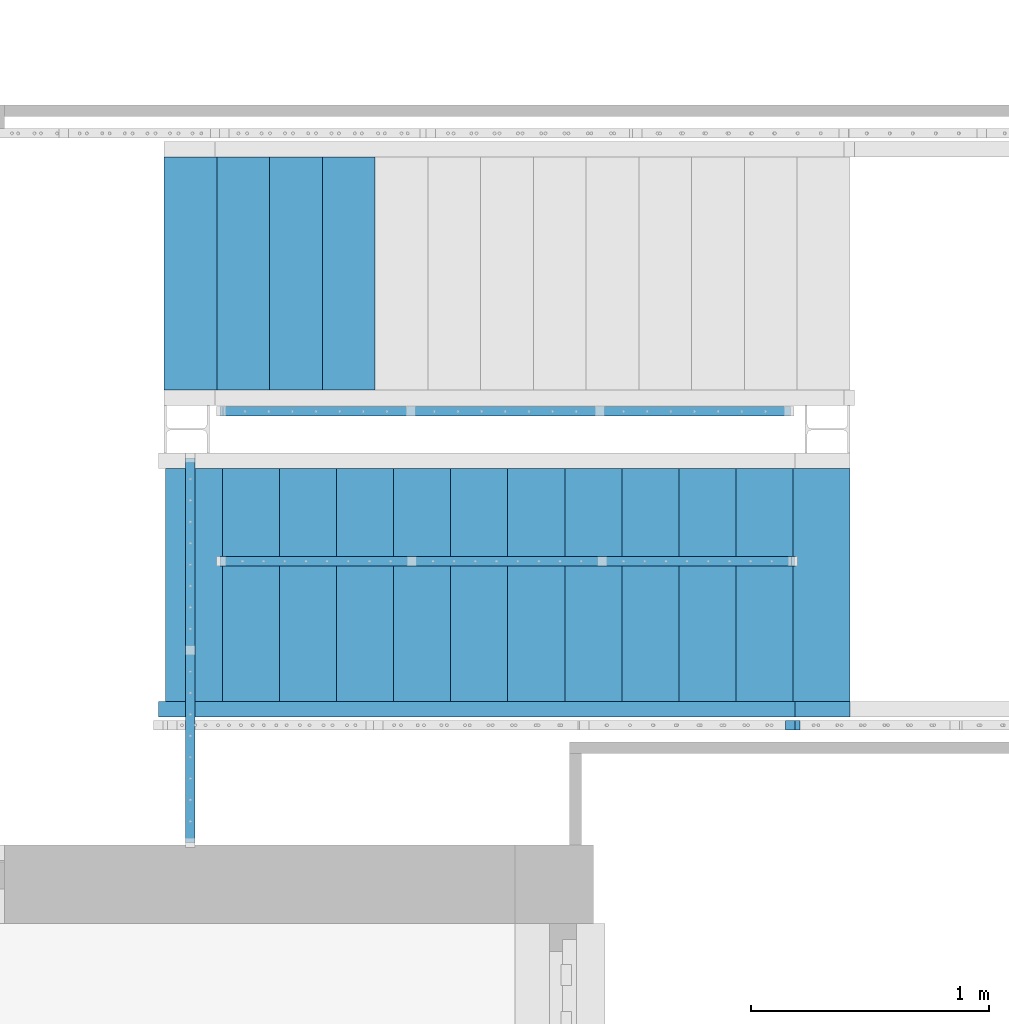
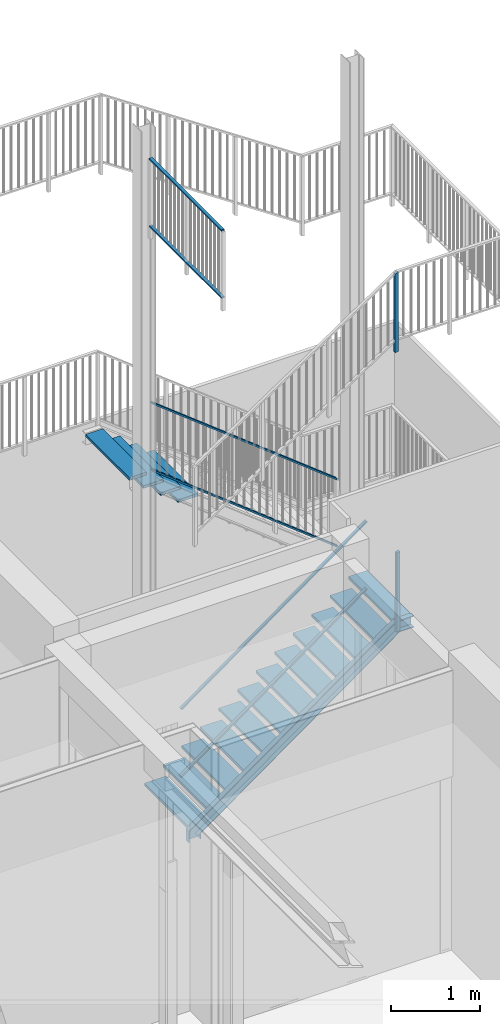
# One storey, part 60 of 135: 25 members, 7 elements without a shape of their own.
"""IFC2X3 building model written with IfcOpenShell, lengths in millimetres."""

from ifc_helpers import new_model, entity, si_unit, converted_unit, derived_unit, money_unit, direction, frame, origin_with_axes, place, context, subcontext, project, spatial, faceted_brep, material, type_object, element, aggregate, save


model = new_model("IFC2X3")

# Units and contexts
model_context = context("Model", 3, precision=0.01, world=origin_with_axes(), true_north=direction((0.0, 1.0)))
body_context = subcontext(model_context, "Body", "Model", "MODEL_VIEW")
ifc_project = project(units=[si_unit("LENGTHUNIT", "METRE", prefix="MILLI"), si_unit("AREAUNIT", "SQUARE_METRE"), si_unit("VOLUMEUNIT", "CUBIC_METRE"), converted_unit("PLANEANGLEUNIT", "DEGREE", entity("IfcPlaneAngleMeasure", 0.0174532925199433), si_unit("PLANEANGLEUNIT", "RADIAN"), dimensions=[0, 0, 0, 0, 0, 0, 0]), money_unit("EUR"), converted_unit("TIMEUNIT", "Year", entity("IfcTimeMeasure", 31557600.0), si_unit("TIMEUNIT", "SECOND"), dimensions=[0, 0, 1, 0, 0, 0, 0]), si_unit("MASSUNIT", "GRAM", prefix="KILO"), si_unit("THERMODYNAMICTEMPERATUREUNIT", "DEGREE_CELSIUS"), si_unit("LUMINOUSINTENSITYUNIT", "LUMEN"), si_unit("ENERGYUNIT", "JOULE", prefix="MEGA"), derived_unit("THERMALCONDUCTANCEUNIT", [(si_unit("POWERUNIT", "WATT"), 1), (si_unit("LENGTHUNIT", "METRE"), -1), (si_unit("THERMODYNAMICTEMPERATUREUNIT", "KELVIN"), -1)]), derived_unit("SPECIFICHEATCAPACITYUNIT", [(si_unit("ENERGYUNIT", "JOULE"), 1), (si_unit("MASSUNIT", "GRAM", prefix="KILO"), -1), (si_unit("THERMODYNAMICTEMPERATUREUNIT", "KELVIN"), -1)]), derived_unit("MASSDENSITYUNIT", [(si_unit("MASSUNIT", "GRAM", prefix="KILO"), 1), (si_unit("VOLUMEUNIT", "CUBIC_METRE"), -1)])], contexts=[model_context])

# Site, building, storey
site_placement = place(None, origin_with_axes())
site = spatial("IfcSite", under=ifc_project, at=site_placement, Name="Site", CompositionType="ELEMENT")
building_placement = place(site_placement, origin_with_axes())
building = spatial("IfcBuilding", under=site, at=building_placement, Name="Naam gebouw", CompositionType="ELEMENT")
storey_placement = place(building_placement, origin_with_axes())
storey = spatial("IfcBuildingStorey", under=building, at=storey_placement, Name="Begane grond N", CompositionType="ELEMENT", Elevation=0.0)

# Railing, member
railing_type = type_object("IfcRailingType", Name="Railing Type", PredefinedType="NOTDEFINED")
railing_1_placement = place(storey_placement, frame((56236.62159597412, 21185.9124251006, 157.4646725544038), z_axis=(0.0, 0.0, 1.0), x_axis=(1.0, 0.0, 0.0)))
railing_1 = element("IfcRailing", 1, at=railing_1_placement, inside=storey, type_object=railing_type, Name="_Reling-x", PredefinedType="NOTDEFINED")
ifc_material = material(Name="Metaal - Staal C")
member_type_1 = type_object("IfcMemberType", Name="IfcMember", PredefinedType="POST")
member_1_placement = place(railing_1_placement, frame((2542.415388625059, -24.99999999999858, 1830.208938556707), z_axis=(0.0, 0.0, 1.0), x_axis=(1.0, 0.0, 0.0)))
member_1 = element("IfcMember", 2, at=member_1_placement, type_object=member_type_1, material=ifc_material, Name="_Hoofdbaluster-x", ObjectType="POST", context=body_context, shape_type="Brep", body=[
    faceted_brep([(20.00000000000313, -19.99999999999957, 6.454471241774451), (20.00000000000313, 19.99999999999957, 6.454471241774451), (20.00000000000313, 19.99999999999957, 1086.454471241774), (20.00000000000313, -19.99999999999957, 1086.454471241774), (-20.00000000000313, -19.99999999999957, -6.454471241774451), (-20.00000000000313, 19.99999999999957, -6.454471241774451), (-20.00000000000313, 19.99999999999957, 1073.545528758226), (-20.00000000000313, -19.99999999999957, 1073.545528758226)], [[[0, 1, 2, 3]], [[0, 4, 5, 1]], [[1, 5, 6, 2]], [[3, 2, 6, 7]], [[4, 0, 3, 7]], [[5, 4, 7, 6]]]),
])
aggregate(railing_1, [member_1])

railing_2_placement = place(storey_placement, frame((56236.62159597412, 21185.9124251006, 4176.0), z_axis=(0.0, 0.0, 1.0), x_axis=(1.0, 0.0, 0.0)))
railing_2 = element("IfcRailing", 3, at=railing_2_placement, inside=storey, type_object=railing_type, Name="_Reling-x", PredefinedType="NOTDEFINED")
member_2_placement = place(railing_2_placement, frame((2521.492459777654, -24.99999999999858, 1636.673611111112), z_axis=(0.0, 0.0, 1.0), x_axis=(1.0, 0.0, 0.0)))
member_2 = element("IfcMember", 4, at=member_2_placement, type_object=member_type_1, material=ifc_material, Name="_Hoofdbaluster-x", ObjectType="POST", context=body_context, shape_type="Brep", body=[
    faceted_brep([(20.00000000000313, -19.99999999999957, 6.066070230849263), (20.00000000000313, 19.99999999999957, 6.066070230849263), (20.00000000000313, 19.99999999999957, 1086.066070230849), (20.00000000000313, -19.99999999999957, 1086.066070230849), (-20.00000000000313, -19.99999999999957, -6.066070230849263), (-20.00000000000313, 19.99999999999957, -6.066070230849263), (-20.00000000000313, 19.99999999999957, 1073.933929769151), (-20.00000000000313, -19.99999999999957, 1073.933929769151)], [[[0, 1, 2, 3]], [[0, 4, 5, 1]], [[1, 5, 6, 2]], [[3, 2, 6, 7]], [[4, 0, 3, 7]], [[5, 4, 7, 6]]]),
])
aggregate(railing_2, [member_2])

# Railing, members
railing_3_placement = place(storey_placement, frame((56130.0, 21825.9124251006, 348.1433232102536), z_axis=(0.0, 0.0, 1.0), x_axis=(1.0, 0.0, 0.0)))
railing_3 = element("IfcRailing", 5, at=railing_3_placement, inside=storey, type_object=railing_type, Name="_Reling-x", PredefinedType="NOTDEFINED")
member_type_2 = type_object("IfcMemberType", Name="IfcMember", PredefinedType="USERDEFINED")
member_3_placement = place(railing_3_placement, frame((1437.32638888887, 24.99999999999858, 971.7157287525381), z_axis=(0.0, 0.0, 1.0), x_axis=(1.0, 0.0, 0.0)))
member_3 = element("IfcMember", 6, at=member_3_placement, type_object=member_type_2, material=ifc_material, Name="_Bovenregel-x", context=body_context, shape_type="Brep", body=[
    faceted_brep([(-1202.673611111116, -19.99999999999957, 28.2842712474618), (-1190.982322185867, -19.99999999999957, 12.05732565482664), (1214.364900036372, -19.99999999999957, 1745.076591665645), (1202.673611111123, -19.99999999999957, 1761.303537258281), (-1202.673611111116, 19.99999999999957, 28.2842712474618), (-1190.982322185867, 19.99999999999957, 12.05732565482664), (1214.364900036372, 19.99999999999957, 1745.076591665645), (1202.673611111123, 19.99999999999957, 1761.303537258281)], [[[0, 1, 2, 3]], [[0, 4, 5, 1]], [[1, 5, 6, 2]], [[3, 2, 6, 7]], [[4, 0, 3, 7]], [[5, 4, 7, 6]]]),
])
member_4_placement = place(railing_3_placement, frame((1437.32638888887, 24.99999999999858, 47.63932022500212), z_axis=(0.0, 0.0, 1.0), x_axis=(1.0, 0.0, 0.0)))
member_4 = element("IfcMember", 7, at=member_4_placement, type_object=member_type_2, material=ifc_material, Name="_Regel-x", context=body_context, shape_type="Brep", body=[
    faceted_brep([(-1208.519255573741, -19.99999999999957, 30.47415257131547), (-1196.827966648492, -19.99999999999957, 14.24720697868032), (1208.519255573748, -19.99999999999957, 1747.266472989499), (1196.827966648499, -19.99999999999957, 1763.493418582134), (-1208.519255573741, 19.99999999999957, 30.47415257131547), (-1196.827966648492, 19.99999999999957, 14.24720697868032), (1208.519255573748, 19.99999999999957, 1747.266472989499), (1196.827966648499, 19.99999999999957, 1763.493418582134)], [[[0, 1, 2, 3]], [[0, 4, 5, 1]], [[1, 5, 6, 2]], [[3, 2, 6, 7]], [[4, 0, 3, 7]], [[5, 4, 7, 6]]]),
])
aggregate(railing_3, [member_3, member_4])

railing_4_placement = place(storey_placement, frame((56130.0, 22505.9124251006, 2285.20743093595), z_axis=(0.0, 0.0, 1.0), x_axis=(1.0, 0.0, 0.0)))
railing_4 = element("IfcRailing", 8, at=railing_4_placement, inside=storey, type_object=railing_type, Name="_Reling-x", PredefinedType="NOTDEFINED")
member_5_placement = place(railing_4_placement, frame((1429.206740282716, -24.99999999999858, 971.7157287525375), z_axis=(0.0, 0.0, 1.0), x_axis=(1.0, 0.0, 0.0)))
member_5 = element("IfcMember", 9, at=member_5_placement, type_object=member_type_2, material=ifc_material, Name="_Bovenregel-x", context=body_context, shape_type="Brep", body=[
    faceted_brep([(-1194.206740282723, -19.99999999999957, 1904.066623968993), (-1206.559798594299, -19.99999999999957, 1888.337607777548), (1181.853681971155, -19.99999999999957, 12.55525505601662), (1194.206740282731, -19.99999999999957, 28.28427124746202), (-1194.206740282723, 19.99999999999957, 1904.066623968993), (-1206.559798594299, 19.99999999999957, 1888.337607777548), (1181.853681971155, 19.99999999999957, 12.55525505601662), (1194.206740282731, 19.99999999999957, 28.28427124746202)], [[[0, 1, 2, 3]], [[0, 4, 5, 1]], [[1, 5, 6, 2]], [[3, 2, 6, 7]], [[4, 0, 3, 7]], [[5, 4, 7, 6]]]),
])
member_6_placement = place(railing_4_placement, frame((1429.206740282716, -24.99999999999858, 47.63932022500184), z_axis=(0.0, 0.0, 1.0), x_axis=(1.0, 0.0, 0.0)))
member_6 = element("IfcMember", 10, at=member_6_placement, type_object=member_type_2, material=ifc_material, Name="_Regel-x", context=body_context, shape_type="Brep", body=[
    faceted_brep([(-1188.030211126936, -19.99999999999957, 1906.007540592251), (-1200.383269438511, -19.99999999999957, 1890.278524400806), (1188.030211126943, -19.99999999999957, 14.49617167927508), (1200.383269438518, -19.99999999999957, 30.22518787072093), (-1188.030211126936, 19.99999999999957, 1906.007540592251), (-1200.383269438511, 19.99999999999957, 1890.278524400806), (1188.030211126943, 19.99999999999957, 14.49617167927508), (1200.383269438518, 19.99999999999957, 30.22518787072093)], [[[0, 1, 2, 3]], [[0, 4, 5, 1]], [[1, 5, 6, 2]], [[3, 2, 6, 7]], [[4, 0, 3, 7]], [[5, 4, 7, 6]]]),
])
aggregate(railing_4, [member_5, member_6])

railing_5_placement = place(storey_placement, frame((56209.65277777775, 21185.9124251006, 7662.6), z_axis=(0.0, 0.0, 1.0), x_axis=(1.0, 0.0, 0.0)))
railing_5 = element("IfcRailing", 11, at=railing_5_placement, inside=storey, type_object=railing_type, Name="_Reling-x", PredefinedType="NOTDEFINED")
member_7_placement = place(railing_5_placement, frame((24.99999999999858, 290.0000000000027, 971.7157287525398), z_axis=(0.0, 0.0, 1.0), x_axis=(1.0, 0.0, 0.0)))
member_7 = element("IfcMember", 12, at=member_7_placement, type_object=member_type_2, material=ifc_material, Name="_Bovenregel-x", context=body_context, shape_type="Brep", body=[
    faceted_brep([(20.00000000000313, -809.9999999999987, 28.28427124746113), (20.00000000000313, -809.9999999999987, 8.284271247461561), (20.00000000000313, 809.9999999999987, 8.284271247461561), (20.00000000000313, 809.9999999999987, 28.28427124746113), (-20.00000000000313, -809.9999999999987, 28.28427124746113), (-20.00000000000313, -809.9999999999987, 8.284271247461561), (-20.00000000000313, 809.9999999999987, 8.284271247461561), (-20.00000000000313, 809.9999999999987, 28.28427124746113)], [[[0, 1, 2, 3]], [[0, 4, 5, 1]], [[1, 5, 6, 2]], [[3, 2, 6, 7]], [[4, 0, 3, 7]], [[5, 4, 7, 6]]]),
])
member_8_placement = place(railing_5_placement, frame((24.99999999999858, 290.0000000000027, 47.63932022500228), z_axis=(0.0, 0.0, 1.0), x_axis=(1.0, 0.0, 0.0)))
member_8 = element("IfcMember", 13, at=member_8_placement, type_object=member_type_2, material=ifc_material, Name="_Regel-x", context=body_context, shape_type="Brep", body=[
    faceted_brep([(20.00000000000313, -809.9999999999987, 32.36067977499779), (20.00000000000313, -809.9999999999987, 12.36067977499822), (20.00000000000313, 809.9999999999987, 12.36067977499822), (20.00000000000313, 809.9999999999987, 32.36067977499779), (-20.00000000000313, -809.9999999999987, 32.36067977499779), (-20.00000000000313, -809.9999999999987, 12.36067977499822), (-20.00000000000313, 809.9999999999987, 12.36067977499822), (-20.00000000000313, 809.9999999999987, 32.36067977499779)], [[[0, 1, 2, 3]], [[0, 4, 5, 1]], [[1, 5, 6, 2]], [[3, 2, 6, 7]], [[4, 0, 3, 7]], [[5, 4, 7, 6]]]),
])
aggregate(railing_5, [member_7, member_8])

# Stair, members
stair_1_placement = place(storey_placement, frame((56130.0, 22240.9124251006, 0.0), z_axis=(0.0, 0.0, 1.0), x_axis=(-1.0, 0.0, 0.0)))
stair_1 = element("IfcStair", 14, at=stair_1_placement, inside=storey, Name="_Trap-x", ShapeType="NOTDEFINED")
member_type_3 = type_object("IfcMemberType", Name="IfcMember", PredefinedType="NOTDEFINED")
member_9_placement = place(stair_1_placement, origin_with_axes())
member_9 = element("IfcMember", 15, at=member_9_placement, type_object=member_type_3, material=ifc_material, Name="_Trapconstructie-x", context=body_context, shape_type="Brep", body=[
    faceted_brep([(30.00000000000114, 979.9999999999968, 0.0), (30.00000000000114, 979.9999999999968, 157.4646725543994), (-130.0000000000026, 979.9999999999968, 75.53959525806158), (-130.0000000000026, 979.9999999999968, 0.0), (30.00000000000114, 1044.999999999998, 0.0), (30.00000000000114, 1044.999999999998, 157.4646725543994), (2.922822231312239, 979.9999999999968, 176.9734030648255), (-90.6074891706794, 979.9999999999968, 47.15783832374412), (-130.0000000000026, 1044.999999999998, 75.53959525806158), (-130.0000000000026, 1044.999999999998, 0.0), (-119.5000000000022, 1044.999999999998, 0.0), (-119.5000000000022, 987.4999999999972, 0.0), (19.50000000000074, 987.4999999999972, 0.0), (19.50000000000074, 1044.999999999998, 0.0), (19.50000000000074, 1044.999999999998, 152.0883393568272), (2.922822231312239, 1044.999999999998, 176.9734030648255), (-237.0771777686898, 979.9999999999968, 349.8900697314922), (-330.6074891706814, 979.9999999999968, 220.0745049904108), (-90.6074891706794, 1044.999999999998, 47.15783832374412), (-119.5000000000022, 1044.999999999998, 80.91592845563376), (-119.5000000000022, 987.4999999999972, 80.91592845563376), (19.50000000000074, 987.4999999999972, 152.0883393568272), (-3.21510445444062, 1044.999999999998, 168.454256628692), (-237.0771777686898, 1044.999999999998, 349.8900697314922), (-477.0771777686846, 979.9999999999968, 522.8067363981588), (-570.6074891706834, 979.9999999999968, 392.9911716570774), (-330.6074891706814, 1044.999999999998, 220.0745049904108), (-84.46956248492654, 1044.999999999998, 55.67698475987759), (-84.46956248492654, 987.4999999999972, 55.67698475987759), (-3.21510445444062, 987.4999999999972, 168.454256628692), (-243.2151044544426, 1044.999999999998, 341.3709232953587), (-477.0771777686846, 1044.999999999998, 522.8067363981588), (-717.0771777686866, 979.9999999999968, 695.7234030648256), (-810.6074891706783, 979.9999999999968, 565.9078383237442), (-570.6074891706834, 1044.999999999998, 392.9911716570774), (-324.4695624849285, 1044.999999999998, 228.5936514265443), (-324.4695624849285, 987.4999999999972, 228.5936514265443), (-243.2151044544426, 987.4999999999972, 341.3709232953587), (-483.2151044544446, 1044.999999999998, 514.2875899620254), (-717.0771777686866, 1044.999999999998, 695.7234030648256), (-957.0771777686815, 979.9999999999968, 868.6400697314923), (-1050.60748917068, 979.9999999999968, 738.8245049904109), (-810.6074891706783, 1044.999999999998, 565.9078383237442), (-564.4695624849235, 1044.999999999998, 401.5103180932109), (-564.4695624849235, 987.4999999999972, 401.5103180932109), (-483.2151044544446, 987.4999999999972, 514.2875899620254), (-723.2151044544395, 1044.999999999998, 687.2042566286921), (-957.0771777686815, 1044.999999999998, 868.6400697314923), (-1197.077177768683, 979.9999999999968, 1041.556736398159), (-1290.607489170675, 979.9999999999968, 911.7411716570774), (-1050.60748917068, 1044.999999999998, 738.8245049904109), (-804.4695624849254, 1044.999999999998, 574.4269847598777), (-804.4695624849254, 987.4999999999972, 574.4269847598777), (-723.2151044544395, 987.4999999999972, 687.2042566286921), (-963.2151044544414, 1044.999999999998, 860.1209232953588), (-1197.077177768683, 1044.999999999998, 1041.556736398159), (-1437.077177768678, 979.9999999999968, 1214.473403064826), (-1530.607489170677, 979.9999999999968, 1084.657838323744), (-1290.607489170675, 1044.999999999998, 911.7411716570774), (-1044.46956248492, 1044.999999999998, 747.3436514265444), (-1044.46956248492, 987.4999999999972, 747.3436514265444), (-963.2151044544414, 987.4999999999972, 860.1209232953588), (-1203.215104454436, 1044.999999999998, 1033.037589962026), (-1437.077177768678, 1044.999999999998, 1214.473403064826), (-1677.07717776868, 979.9999999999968, 1387.390069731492), (-1770.607489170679, 979.9999999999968, 1257.574504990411), (-1530.607489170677, 1044.999999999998, 1084.657838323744), (-1284.469562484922, 1044.999999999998, 920.2603180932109), (-1284.469562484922, 987.4999999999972, 920.2603180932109), (-1203.215104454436, 987.4999999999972, 1033.037589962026), (-1443.215104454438, 1044.999999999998, 1205.954256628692), (-1677.07717776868, 1044.999999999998, 1387.390069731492), (-1917.077177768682, 979.9999999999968, 1560.306736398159), (-2010.607489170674, 979.9999999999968, 1430.491171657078), (-1770.607489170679, 1044.999999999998, 1257.574504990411), (-1524.469562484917, 1044.999999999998, 1093.176984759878), (-1524.469562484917, 987.4999999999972, 1093.176984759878), (-1443.215104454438, 987.4999999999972, 1205.954256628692), (-1683.215104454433, 1044.999999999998, 1378.870923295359), (-1917.077177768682, 1044.999999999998, 1560.306736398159), (-2157.077177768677, 979.9999999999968, 1733.223403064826), (-2250.607489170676, 979.9999999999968, 1603.407838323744), (-2010.607489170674, 1044.999999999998, 1430.491171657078), (-1764.469562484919, 1044.999999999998, 1266.093651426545), (-1764.469562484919, 987.4999999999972, 1266.093651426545), (-1683.215104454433, 987.4999999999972, 1378.870923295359), (-1923.215104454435, 1044.999999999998, 1551.787589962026), (-2157.077177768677, 1044.999999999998, 1733.223403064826), (-2397.077177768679, 979.9999999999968, 1906.140069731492), (-2490.607489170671, 979.9999999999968, 1776.324504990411), (-2250.607489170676, 1044.999999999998, 1603.407838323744), (-2004.469562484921, 1044.999999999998, 1439.010318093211), (-2004.469562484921, 987.4999999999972, 1439.010318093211), (-1923.215104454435, 987.4999999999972, 1551.787589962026), (-2163.215104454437, 1044.999999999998, 1724.704256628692), (-2397.077177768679, 1044.999999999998, 1906.140069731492), (-2649.073611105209, 979.9999999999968, 2087.7), (-2700.709381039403, 979.9999999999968, 1927.7), (-2490.607489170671, 1044.999999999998, 1776.324504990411), (-2244.469562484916, 1044.999999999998, 1611.926984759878), (-2244.469562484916, 987.4999999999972, 1611.926984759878), (-2163.215104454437, 987.4999999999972, 1724.704256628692), (-2403.215104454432, 1044.999999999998, 1897.620923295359), (-2649.073611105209, 1044.999999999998, 2087.7), (-2879.999999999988, 979.9999999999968, 2087.7), (-2879.999999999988, 979.9999999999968, 1927.7), (-2700.709381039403, 1044.999999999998, 1927.7), (-2484.469562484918, 1044.999999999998, 1784.843651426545), (-2484.469562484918, 987.4999999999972, 1784.843651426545), (-2403.215104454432, 987.4999999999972, 1897.620923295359), (-2652.462208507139, 1044.999999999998, 2077.2), (-2879.999999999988, 1044.999999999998, 2087.7), (-2879.999999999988, 1044.999999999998, 2077.2), (-2879.999999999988, 987.4999999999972, 2077.2), (-2879.999999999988, 987.4999999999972, 1938.2), (-2879.999999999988, 1044.999999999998, 1938.2), (-2879.999999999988, 1044.999999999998, 1927.7), (-2697.320783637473, 1044.999999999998, 1938.2), (-2697.320783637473, 987.4999999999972, 1938.2), (-2652.462208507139, 987.4999999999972, 2077.2)], [[[0, 1, 2, 3]], [[4, 5, 1, 0]], [[2, 1, 6, 7]], [[3, 2, 8, 9]], [[3, 9, 10, 11, 12, 13, 4, 0]], [[13, 14, 5, 4]], [[1, 5, 15, 6]], [[7, 6, 16, 17]], [[8, 2, 7, 18]], [[9, 8, 19, 10]], [[10, 19, 20, 11]], [[11, 20, 21, 12]], [[12, 21, 14, 13]], [[5, 14, 22, 15]], [[6, 15, 23, 16]], [[17, 16, 24, 25]], [[18, 7, 17, 26]], [[19, 8, 18, 27]], [[20, 19, 27, 28]], [[21, 20, 28, 29]], [[14, 21, 29, 22]], [[15, 22, 30, 23]], [[16, 23, 31, 24]], [[25, 24, 32, 33]], [[26, 17, 25, 34]], [[27, 18, 26, 35]], [[28, 27, 35, 36]], [[29, 28, 36, 37]], [[22, 29, 37, 30]], [[23, 30, 38, 31]], [[24, 31, 39, 32]], [[33, 32, 40, 41]], [[34, 25, 33, 42]], [[35, 26, 34, 43]], [[36, 35, 43, 44]], [[37, 36, 44, 45]], [[30, 37, 45, 38]], [[31, 38, 46, 39]], [[32, 39, 47, 40]], [[41, 40, 48, 49]], [[42, 33, 41, 50]], [[43, 34, 42, 51]], [[44, 43, 51, 52]], [[45, 44, 52, 53]], [[38, 45, 53, 46]], [[39, 46, 54, 47]], [[40, 47, 55, 48]], [[49, 48, 56, 57]], [[50, 41, 49, 58]], [[51, 42, 50, 59]], [[52, 51, 59, 60]], [[53, 52, 60, 61]], [[46, 53, 61, 54]], [[47, 54, 62, 55]], [[48, 55, 63, 56]], [[57, 56, 64, 65]], [[58, 49, 57, 66]], [[59, 50, 58, 67]], [[60, 59, 67, 68]], [[61, 60, 68, 69]], [[54, 61, 69, 62]], [[55, 62, 70, 63]], [[56, 63, 71, 64]], [[65, 64, 72, 73]], [[66, 57, 65, 74]], [[67, 58, 66, 75]], [[68, 67, 75, 76]], [[69, 68, 76, 77]], [[62, 69, 77, 70]], [[63, 70, 78, 71]], [[64, 71, 79, 72]], [[73, 72, 80, 81]], [[74, 65, 73, 82]], [[75, 66, 74, 83]], [[76, 75, 83, 84]], [[77, 76, 84, 85]], [[70, 77, 85, 78]], [[71, 78, 86, 79]], [[72, 79, 87, 80]], [[81, 80, 88, 89]], [[82, 73, 81, 90]], [[83, 74, 82, 91]], [[84, 83, 91, 92]], [[85, 84, 92, 93]], [[78, 85, 93, 86]], [[79, 86, 94, 87]], [[80, 87, 95, 88]], [[89, 88, 96, 97]], [[90, 81, 89, 98]], [[91, 82, 90, 99]], [[92, 91, 99, 100]], [[93, 92, 100, 101]], [[86, 93, 101, 94]], [[87, 94, 102, 95]], [[88, 95, 103, 96]], [[97, 96, 104, 105]], [[98, 89, 97, 106]], [[99, 90, 98, 107]], [[100, 99, 107, 108]], [[101, 100, 108, 109]], [[94, 101, 109, 102]], [[95, 102, 110, 103]], [[96, 103, 111, 104]], [[105, 104, 111, 112, 113, 114, 115, 116]], [[106, 97, 105, 116]], [[107, 98, 106, 117]], [[108, 107, 117, 118]], [[109, 108, 118, 119]], [[102, 109, 119, 110]], [[103, 110, 112, 111]], [[110, 119, 113, 112]], [[119, 118, 114, 113]], [[118, 117, 115, 114]], [[117, 106, 116, 115]]]),
])
member_type_4 = type_object("IfcMemberType", Name="IfcMember", PredefinedType="USERDEFINED")
member_10_placement = place(stair_1_placement, frame((0.0, 489.9999999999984, 172.9166666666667), z_axis=(0.0, 0.0, 1.0), x_axis=(0.0, 1.0, 0.0)))
member_10 = element("IfcMember", 16, at=member_10_placement, type_object=member_type_4, material=ifc_material, Name="_Traptrede-x", context=body_context, shape_type="Brep", body=[
    faceted_brep([(-490.0, 0.0, -38.0), (490.0, 0.0, -38.0), (490.0, 0.0, 0.0), (-490.0, 0.0, 0.0), (-490.0, 279.9999999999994, -38.0), (490.0, 279.9999999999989, -38.0), (490.0, 279.9999999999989, 0.0), (-490.0, 279.9999999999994, 0.0)], [[[0, 1, 2, 3]], [[0, 4, 5, 1]], [[1, 5, 6, 2]], [[3, 2, 6, 7]], [[4, 0, 3, 7]], [[5, 4, 7, 6]]]),
])
member_11_placement = place(stair_1_placement, frame((-240.000000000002, 489.9999999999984, 345.8333333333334), z_axis=(0.0, 0.0, 1.0), x_axis=(0.0, 1.0, 0.0)))
member_11 = element("IfcMember", 17, at=member_11_placement, type_object=member_type_4, material=ifc_material, Name="_Traptrede-x", context=body_context, shape_type="Brep", body=[
    faceted_brep([(-490.0, 0.0, -38.0), (490.0, 0.0, -38.0), (490.0, 0.0, 0.0), (-490.0, 0.0, 0.0), (-490.0, 279.9999999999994, -38.0), (490.0, 279.9999999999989, -38.0), (490.0, 279.9999999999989, 0.0), (-490.0, 279.9999999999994, 0.0)], [[[0, 1, 2, 3]], [[0, 4, 5, 1]], [[1, 5, 6, 2]], [[3, 2, 6, 7]], [[4, 0, 3, 7]], [[5, 4, 7, 6]]]),
])
member_12_placement = place(stair_1_placement, frame((-479.9999999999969, 489.9999999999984, 518.75), z_axis=(0.0, 0.0, 1.0), x_axis=(0.0, 1.0, 0.0)))
member_12 = element("IfcMember", 18, at=member_12_placement, type_object=member_type_4, material=ifc_material, Name="_Traptrede-x", context=body_context, shape_type="Brep", body=[
    faceted_brep([(-490.0, 0.0, -38.0), (490.0, 0.0, -38.0), (490.0, 0.0, 0.0), (-490.0, 0.0, 0.0), (-490.0, 279.9999999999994, -38.0), (490.0, 279.9999999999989, -38.0), (490.0, 279.9999999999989, 0.0), (-490.0, 279.9999999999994, 0.0)], [[[0, 1, 2, 3]], [[0, 4, 5, 1]], [[1, 5, 6, 2]], [[3, 2, 6, 7]], [[4, 0, 3, 7]], [[5, 4, 7, 6]]]),
])
member_13_placement = place(stair_1_placement, frame((-719.9999999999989, 489.9999999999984, 691.6666666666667), z_axis=(0.0, 0.0, 1.0), x_axis=(0.0, 1.0, 0.0)))
member_13 = element("IfcMember", 19, at=member_13_placement, type_object=member_type_4, material=ifc_material, Name="_Traptrede-x", context=body_context, shape_type="Brep", body=[
    faceted_brep([(-490.0, 0.0, -38.0), (490.0, 0.0, -38.0), (490.0, 0.0, 0.0), (-490.0, 0.0, 0.0), (-490.0, 279.9999999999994, -38.0), (490.0, 279.9999999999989, -38.0), (490.0, 279.9999999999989, 0.0), (-490.0, 279.9999999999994, 0.0)], [[[0, 1, 2, 3]], [[0, 4, 5, 1]], [[1, 5, 6, 2]], [[3, 2, 6, 7]], [[4, 0, 3, 7]], [[5, 4, 7, 6]]]),
])
member_14_placement = place(stair_1_placement, frame((-959.9999999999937, 489.9999999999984, 864.5833333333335), z_axis=(0.0, 0.0, 1.0), x_axis=(0.0, 1.0, 0.0)))
member_14 = element("IfcMember", 20, at=member_14_placement, type_object=member_type_4, material=ifc_material, Name="_Traptrede-x", context=body_context, shape_type="Brep", body=[
    faceted_brep([(-490.0, 0.0, -38.0), (490.0, 0.0, -38.0), (490.0, 0.0, 0.0), (-490.0, 0.0, 0.0), (-490.0, 279.9999999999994, -38.0), (490.0, 279.9999999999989, -38.0), (490.0, 279.9999999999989, 0.0), (-490.0, 279.9999999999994, 0.0)], [[[0, 1, 2, 3]], [[0, 4, 5, 1]], [[1, 5, 6, 2]], [[3, 2, 6, 7]], [[4, 0, 3, 7]], [[5, 4, 7, 6]]]),
])
member_15_placement = place(stair_1_placement, frame((-1199.999999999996, 489.9999999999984, 1037.5), z_axis=(0.0, 0.0, 1.0), x_axis=(0.0, 1.0, 0.0)))
member_15 = element("IfcMember", 21, at=member_15_placement, type_object=member_type_4, material=ifc_material, Name="_Traptrede-x", context=body_context, shape_type="Brep", body=[
    faceted_brep([(-490.0, 0.0, -38.0), (490.0, 0.0, -38.0), (490.0, 0.0, 0.0), (-490.0, 0.0, 0.0), (-490.0, 279.9999999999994, -38.0), (490.0, 279.9999999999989, -38.0), (490.0, 279.9999999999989, 0.0), (-490.0, 279.9999999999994, 0.0)], [[[0, 1, 2, 3]], [[0, 4, 5, 1]], [[1, 5, 6, 2]], [[3, 2, 6, 7]], [[4, 0, 3, 7]], [[5, 4, 7, 6]]]),
])
member_16_placement = place(stair_1_placement, frame((-1439.999999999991, 489.9999999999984, 1210.416666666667), z_axis=(0.0, 0.0, 1.0), x_axis=(0.0, 1.0, 0.0)))
member_16 = element("IfcMember", 22, at=member_16_placement, type_object=member_type_4, material=ifc_material, Name="_Traptrede-x", context=body_context, shape_type="Brep", body=[
    faceted_brep([(-490.0, 0.0, -38.0), (490.0, 0.0, -38.0), (490.0, 0.0, 0.0), (-490.0, 0.0, 0.0), (-490.0, 279.9999999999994, -38.0), (490.0, 279.9999999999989, -38.0), (490.0, 279.9999999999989, 0.0), (-490.0, 279.9999999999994, 0.0)], [[[0, 1, 2, 3]], [[0, 4, 5, 1]], [[1, 5, 6, 2]], [[3, 2, 6, 7]], [[4, 0, 3, 7]], [[5, 4, 7, 6]]]),
])
member_17_placement = place(stair_1_placement, frame((-1679.999999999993, 489.9999999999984, 1383.333333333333), z_axis=(0.0, 0.0, 1.0), x_axis=(0.0, 1.0, 0.0)))
member_17 = element("IfcMember", 23, at=member_17_placement, type_object=member_type_4, material=ifc_material, Name="_Traptrede-x", context=body_context, shape_type="Brep", body=[
    faceted_brep([(-490.0, 0.0, -38.0), (490.0, 0.0, -38.0), (490.0, 0.0, 0.0), (-490.0, 0.0, 0.0), (-490.0, 279.9999999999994, -38.0), (490.0, 279.9999999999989, -38.0), (490.0, 279.9999999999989, 0.0), (-490.0, 279.9999999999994, 0.0)], [[[0, 1, 2, 3]], [[0, 4, 5, 1]], [[1, 5, 6, 2]], [[3, 2, 6, 7]], [[4, 0, 3, 7]], [[5, 4, 7, 6]]]),
])
member_18_placement = place(stair_1_placement, frame((-1919.999999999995, 489.9999999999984, 1556.25), z_axis=(0.0, 0.0, 1.0), x_axis=(0.0, 1.0, 0.0)))
member_18 = element("IfcMember", 24, at=member_18_placement, type_object=member_type_4, material=ifc_material, Name="_Traptrede-x", context=body_context, shape_type="Brep", body=[
    faceted_brep([(-490.0, 0.0, -38.0), (490.0, 0.0, -38.0), (490.0, 0.0, 0.0), (-490.0, 0.0, 0.0), (-490.0, 279.9999999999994, -38.0), (490.0, 279.9999999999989, -38.0), (490.0, 279.9999999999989, 0.0), (-490.0, 279.9999999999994, 0.0)], [[[0, 1, 2, 3]], [[0, 4, 5, 1]], [[1, 5, 6, 2]], [[3, 2, 6, 7]], [[4, 0, 3, 7]], [[5, 4, 7, 6]]]),
])
member_19_placement = place(stair_1_placement, frame((-2159.99999999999, 489.9999999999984, 1729.166666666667), z_axis=(0.0, 0.0, 1.0), x_axis=(0.0, 1.0, 0.0)))
member_19 = element("IfcMember", 25, at=member_19_placement, type_object=member_type_4, material=ifc_material, Name="_Traptrede-x", context=body_context, shape_type="Brep", body=[
    faceted_brep([(-490.0, 0.0, -38.0), (490.0, 0.0, -38.0), (490.0, 0.0, 0.0), (-490.0, 0.0, 0.0), (-490.0, 279.9999999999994, -38.0), (490.0, 279.9999999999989, -38.0), (490.0, 279.9999999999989, 0.0), (-490.0, 279.9999999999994, 0.0)], [[[0, 1, 2, 3]], [[0, 4, 5, 1]], [[1, 5, 6, 2]], [[3, 2, 6, 7]], [[4, 0, 3, 7]], [[5, 4, 7, 6]]]),
])
member_20_placement = place(stair_1_placement, frame((-2399.999999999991, 489.9999999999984, 1902.083333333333), z_axis=(0.0, 0.0, 1.0), x_axis=(0.0, 1.0, 0.0)))
member_20 = element("IfcMember", 26, at=member_20_placement, type_object=member_type_4, material=ifc_material, Name="_Traptrede-x", context=body_context, shape_type="Brep", body=[
    faceted_brep([(-490.0, 0.0, -38.0), (490.0, 0.0, -38.0), (490.0, 0.0, 0.0), (-490.0, 0.0, 0.0), (-490.0, 279.9999999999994, -38.0), (490.0, 279.9999999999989, -38.0), (490.0, 279.9999999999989, 0.0), (-490.0, 279.9999999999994, 0.0)], [[[0, 1, 2, 3]], [[0, 4, 5, 1]], [[1, 5, 6, 2]], [[3, 2, 6, 7]], [[4, 0, 3, 7]], [[5, 4, 7, 6]]]),
])
member_21_placement = place(stair_1_placement, frame((-2639.999999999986, 489.9999999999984, 2075.0), z_axis=(0.0, 0.0, 1.0), x_axis=(0.0, 1.0, 0.0)))
member_21 = element("IfcMember", 27, at=member_21_placement, type_object=member_type_4, material=ifc_material, Name="_Traptrede-x", context=body_context, shape_type="Brep", body=[
    faceted_brep([(-490.0000000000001, 0.0, -38.0), (489.9999999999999, 0.0, -38.0), (489.9999999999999, 0.0, 0.0), (-490.0000000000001, 0.0, 0.0), (-490.0000000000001, 239.9999999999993, -38.0), (489.9999999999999, 239.9999999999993, -38.0), (489.9999999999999, 239.9999999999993, 0.0), (-490.0000000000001, 239.9999999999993, 0.0)], [[[0, 1, 2, 3]], [[0, 4, 5, 1]], [[1, 5, 6, 2]], [[3, 2, 6, 7]], [[4, 0, 3, 7]], [[5, 4, 7, 6]]]),
])
aggregate(stair_1, [member_9, member_10, member_11, member_12, member_13, member_14, member_15, member_16, member_17, member_18, member_19, member_20, member_21])

stair_2_placement = place(storey_placement, frame((59009.99999999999, 22570.91242510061, 1887.673611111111), z_axis=(0.0, 0.0, 1.0), x_axis=(1.0, 0.0, 0.0)))
stair_2 = element("IfcStair", 28, at=stair_2_placement, inside=storey, Name="_Trap-x", ShapeType="NOTDEFINED")
member_22_placement = place(stair_2_placement, frame((-1997.548076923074, 490.000000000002, 1740.251068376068), z_axis=(0.0, 0.0, 1.0), x_axis=(0.0, 1.0, 0.0)))
member_22 = element("IfcMember", 29, at=member_22_placement, type_object=member_type_4, material=ifc_material, Name="_Traptrede-x", context=body_context, shape_type="Brep", body=[
    faceted_brep([(-490.0, 0.0, -38.0), (490.0, 0.0, -38.0), (490.0, 0.0, 0.0), (-490.0, 0.0, 0.0), (-490.0, 261.9497863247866, -38.0), (490.0, 261.9497863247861, -38.0), (490.0, 261.9497863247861, 0.0), (-490.0, 261.9497863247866, 0.0)], [[[0, 1, 2, 3]], [[0, 4, 5, 1]], [[1, 5, 6, 2]], [[3, 2, 6, 7]], [[4, 0, 3, 7]], [[5, 4, 7, 6]]]),
])
member_23_placement = place(stair_2_placement, frame((-2219.49786324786, 490.000000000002, 1914.276175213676), z_axis=(0.0, 0.0, 1.0), x_axis=(0.0, 1.0, 0.0)))
member_23 = element("IfcMember", 30, at=member_23_placement, type_object=member_type_4, material=ifc_material, Name="_Traptrede-x", context=body_context, shape_type="Brep", body=[
    faceted_brep([(-490.0, 0.0, -38.0), (490.0, 0.0, -38.0), (490.0, 0.0, 0.0), (-490.0, 0.0, 0.0), (-490.0, 261.9497863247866, -38.0), (490.0, 261.9497863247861, -38.0), (490.0, 261.9497863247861, 0.0), (-490.0, 261.9497863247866, 0.0)], [[[0, 1, 2, 3]], [[0, 4, 5, 1]], [[1, 5, 6, 2]], [[3, 2, 6, 7]], [[4, 0, 3, 7]], [[5, 4, 7, 6]]]),
])
member_24_placement = place(stair_2_placement, frame((-2441.447649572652, 490.000000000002, 2088.301282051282), z_axis=(0.0, 0.0, 1.0), x_axis=(0.0, 1.0, 0.0)))
member_24 = element("IfcMember", 31, at=member_24_placement, type_object=member_type_4, material=ifc_material, Name="_Traptrede-x", context=body_context, shape_type="Brep", body=[
    faceted_brep([(-490.0, 0.0, -38.0), (490.0, 0.0, -38.0), (490.0, 0.0, 0.0), (-490.0, 0.0, 0.0), (-490.0, 261.9497863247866, -38.0), (490.0, 261.9497863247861, -38.0), (490.0, 261.9497863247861, 0.0), (-490.0, 261.9497863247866, 0.0)], [[[0, 1, 2, 3]], [[0, 4, 5, 1]], [[1, 5, 6, 2]], [[3, 2, 6, 7]], [[4, 0, 3, 7]], [[5, 4, 7, 6]]]),
])
member_25_placement = place(stair_2_placement, frame((-2663.397435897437, 490.000000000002, 2262.326388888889), z_axis=(0.0, 0.0, 1.0), x_axis=(0.0, 1.0, 0.0)))
member_25 = element("IfcMember", 32, at=member_25_placement, type_object=member_type_4, material=ifc_material, Name="_Traptrede-x", context=body_context, shape_type="Brep", body=[
    faceted_brep([(-490.0, 0.0, -38.0), (490.0, 0.0, -38.0), (490.0, 0.0, 0.0), (-490.0, 0.0, 0.0), (-490.0, 221.9497863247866, -38.0), (490.0, 221.9497863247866, -38.0), (490.0, 221.9497863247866, 0.0), (-490.0, 221.9497863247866, 0.0)], [[[0, 1, 2, 3]], [[0, 4, 5, 1]], [[1, 5, 6, 2]], [[3, 2, 6, 7]], [[4, 0, 3, 7]], [[5, 4, 7, 6]]]),
])
aggregate(stair_2, [member_22, member_23, member_24, member_25])

save(model, "model.ifc")
